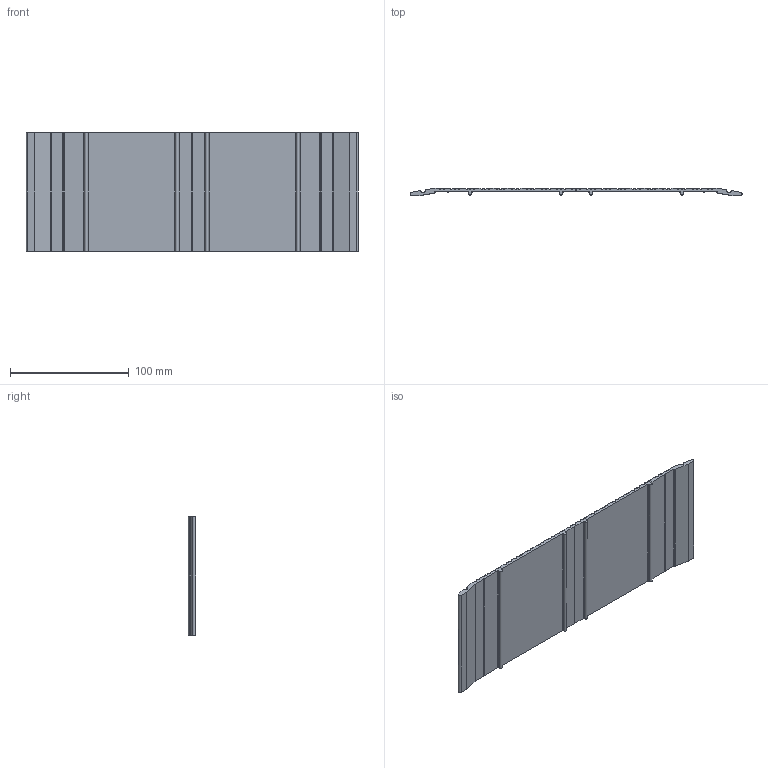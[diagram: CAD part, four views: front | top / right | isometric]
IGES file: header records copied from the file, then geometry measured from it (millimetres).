
Global section: file name: No Iges File Name specified; native system: Autodesk Inventor 2012; preprocessor: AutoDesk Inventor Iges Exporter R2012; author: anna.b; date: 20130731.145742; units: millimetre
Bounding box: 279.52 x 6.35 x 100 mm (x, y, z)
Volume: 82295.9 mm3; surface area: 64481.6 mm2
Topology: 2 solids, 2 shells, 286 faces, 846 edges, 564 vertices
Faces by surface type: cylinder 128, plane 90, revolution 68
